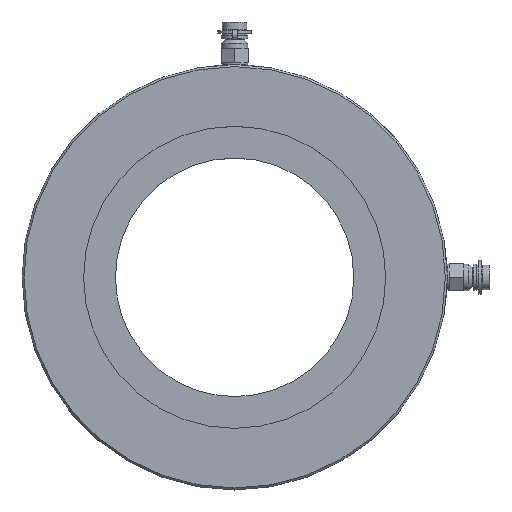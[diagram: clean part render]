
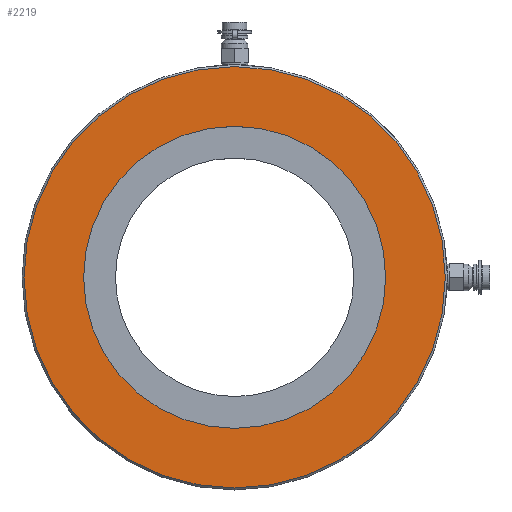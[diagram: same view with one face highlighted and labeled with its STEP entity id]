
A CAD part, top view. The second image highlights one B-rep face of the part: STEP entity #2219.
In plain terms, the highlighted planar face has unit normal (0, 0, 1).
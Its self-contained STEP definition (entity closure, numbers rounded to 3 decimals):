
#2185=CARTESIAN_POINT('',(109.0,0.,9.0));
#2186=VERTEX_POINT('',#2185);
#2187=CARTESIAN_POINT('',(0.0,0.0,9.0));
#2188=DIRECTION('',(0.0,0.0,-1.0));
#2189=DIRECTION('',(-1.0,0.0,0.0));
#2190=AXIS2_PLACEMENT_3D('',#2187,#2188,#2189);
#2191=CIRCLE('',#2190,109.0);
#2192=EDGE_CURVE('',#2186,#2186,#2191,.T.);
#2200=CARTESIAN_POINT('',(0.0,0.0,9.0));
#2201=DIRECTION('',(0.0,0.0,-1.0));
#2202=DIRECTION('',(-1.0,0.0,0.0));
#2203=AXIS2_PLACEMENT_3D('',#2200,#2201,#2202);
#2204=PLANE('',#2203);
#2205=ORIENTED_EDGE('',*,*,#2192,.F.);
#2206=EDGE_LOOP('',(#2205));
#2207=FACE_OUTER_BOUND('',#2206,.T.);
#2208=CARTESIAN_POINT('',(78.15,0.,9.0));
#2209=VERTEX_POINT('',#2208);
#2210=CARTESIAN_POINT('',(0.0,0.0,9.0));
#2211=DIRECTION('',(0.0,0.0,-1.0));
#2212=DIRECTION('',(-1.0,0.0,0.0));
#2213=AXIS2_PLACEMENT_3D('',#2210,#2211,#2212);
#2214=CIRCLE('',#2213,78.15);
#2215=EDGE_CURVE('',#2209,#2209,#2214,.T.);
#2216=ORIENTED_EDGE('',*,*,#2215,.T.);
#2217=EDGE_LOOP('',(#2216));
#2218=FACE_BOUND('',#2217,.T.);
#2219=ADVANCED_FACE('',(#2207,#2218),#2204,.F.);
